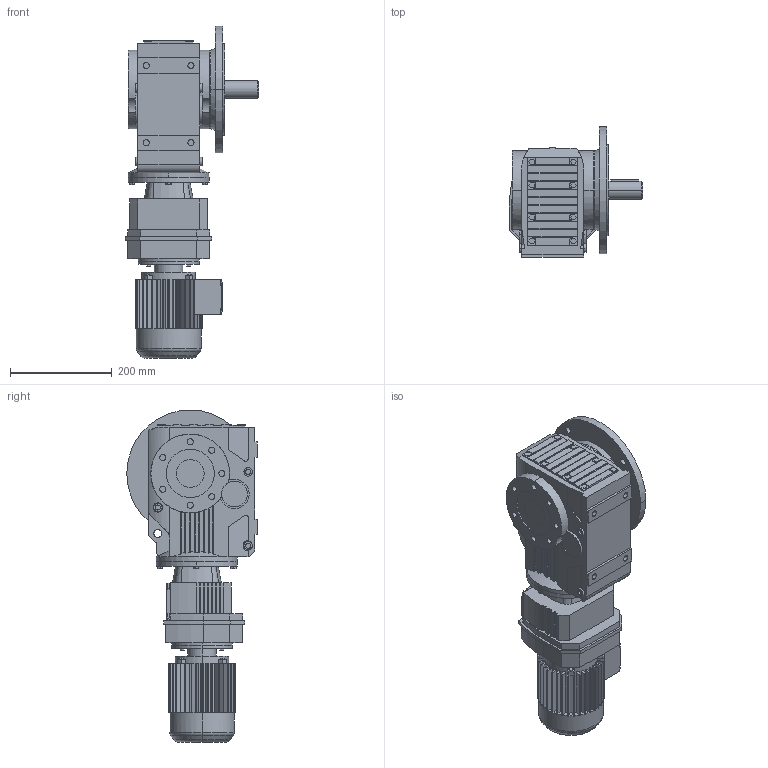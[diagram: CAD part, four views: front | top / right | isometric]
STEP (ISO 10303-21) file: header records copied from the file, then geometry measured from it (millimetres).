
FILE_DESCRIPTION(('Open CASCADE Model'),'2;1');
FILE_NAME('Open CASCADE Shape Model','2021-07-24T16:59:33',('Author'),( 'Open CASCADE'),'Open CASCADE STEP processor 6.3','Open CASCADE 6.3' ,'Unknown');
FILE_SCHEMA(('AUTOMOTIVE_DESIGN_CC2 { 1 2 10303 214 -1 1 5 4 }'));
Length unit declared in the file: millimetre
Products named in the file (6): 1_KF57R37DR63-A; KA37‵107_57.step; 萇儂_120-DR63-191-246-132-105.step; R_57_37.step; す瑩妗陑粣K_57.step; 楊擘K_57.step
Assembly tree (5 placements, depth 2):
  1_KF57R37DR63-A
    KA37‵107_57.step
    萇儂_120-DR63-191-246-132-105.step
    R_57_37.step
    す瑩妗陑粣K_57.step
    楊擘K_57.step
Bounding box: 262 x 257 x 654 mm (x, y, z)
Volume: 12983879.4 mm3; surface area: 816705.3 mm2
Topology: 5 solids, 5 shells, 1127 faces, 2950 edges, 1924 vertices
Faces by surface type: plane 754, cylinder 345, cone 24, torus 4
Entity records: 82313 total; most frequent: CARTESIAN_POINT 26482, DIRECTION 9471, ORIENTED_EDGE 5896, PCURVE 5896, DEFINITIONAL_REPRESENTATION 5896, LINE 5195, VECTOR 5195, EDGE_CURVE 2948
